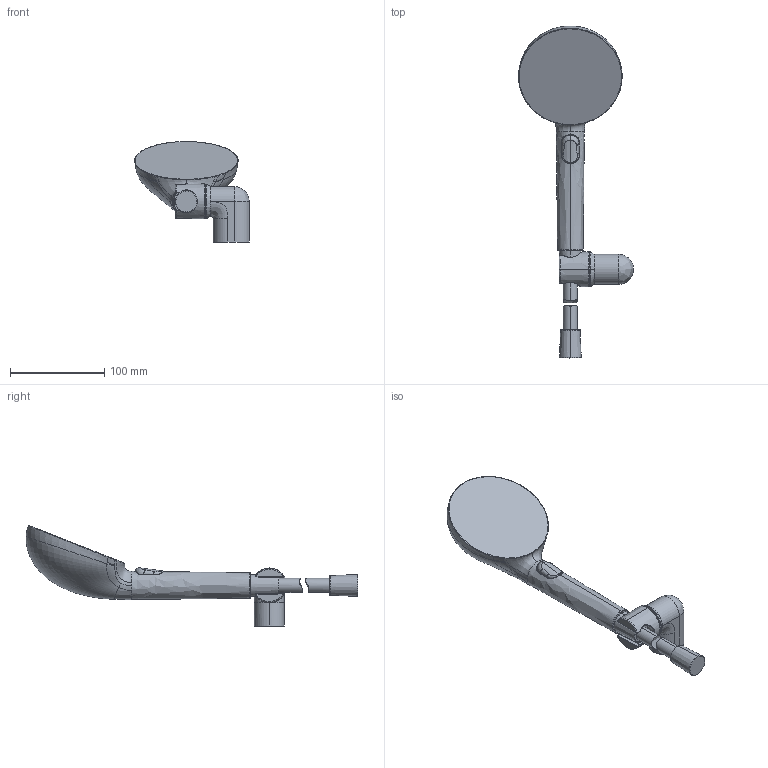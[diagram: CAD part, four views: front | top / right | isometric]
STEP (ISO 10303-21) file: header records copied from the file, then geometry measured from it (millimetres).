
FILE_DESCRIPTION (( 'STEP AP203' ), '1' );
FILE_NAME ('47170120(2024).STEP', '2024-04-11T07:50:24', ( '' ), ( '' ), 'SwSTEP 2.0', 'SolidWorks 2016', '' );
FILE_SCHEMA (( 'CONFIG_CONTROL_DESIGN' ));
Length unit declared in the file: millimetre
Products named in the file (1): 47170120(2024)
Bounding box: 121.87 x 351.91 x 107.03 mm (x, y, z)
Volume: 522409.5 mm3; surface area: 64720.3 mm2
Topology: 6 solids, 6 shells, 231 faces, 522 edges, 305 vertices
Faces by surface type: bspline 133, plane 26, cylinder 24, sphere 22, torus 13, cone 13
Entity records: 24840 total; most frequent: CARTESIAN_POINT 20615, ORIENTED_EDGE 1042, DIRECTION 592, EDGE_CURVE 521, VERTEX_POINT 305, B_SPLINE_CURVE_WITH_KNOTS 270, AXIS2_PLACEMENT_3D 265, EDGE_LOOP 234
